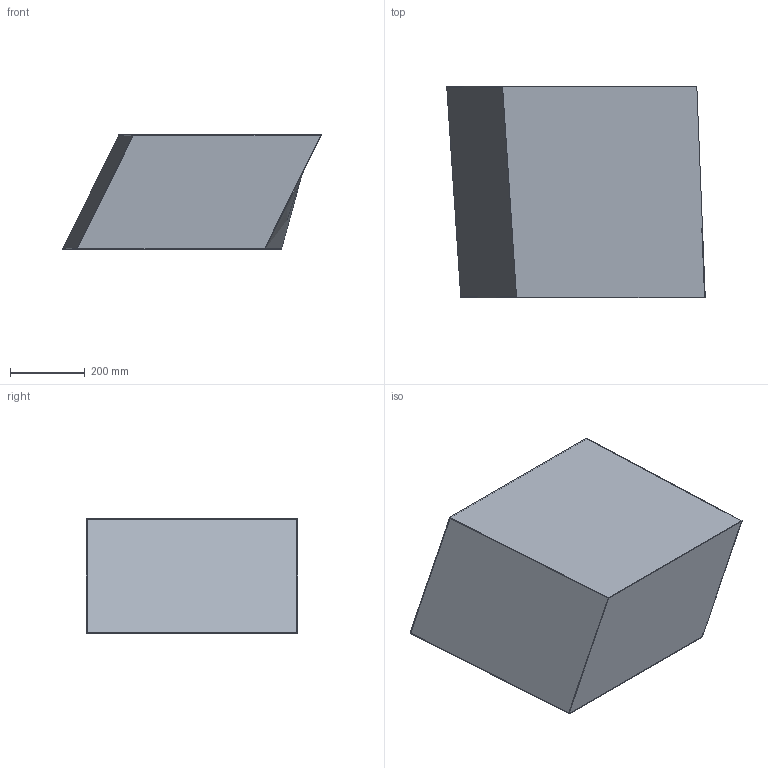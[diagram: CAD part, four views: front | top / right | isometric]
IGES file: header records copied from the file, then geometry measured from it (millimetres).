
Global section: file name: C:\Users\anava\OneDrive\Escritorio\Wireframe3D_03.igs; native system: Rhinoceros ( Jun 12 2023 ); preprocessor: Trout Lake IGES 012 Jun 12 2023; date: 240319.155344; units: millimetre
Bounding box: 691.13 x 564.42 x 306 mm (x, y, z)
Surface area: 2581765.1 mm2 (no closed solid volume)
Topology: 0 solids, 0 shells, 36 faces, 144 edges, 144 vertices
Faces by surface type: bspline 36
